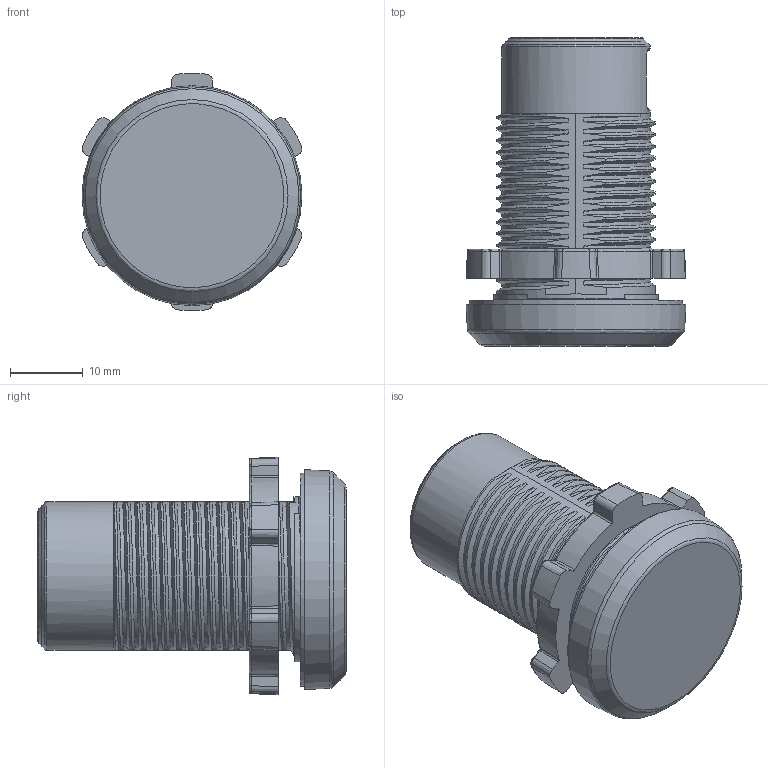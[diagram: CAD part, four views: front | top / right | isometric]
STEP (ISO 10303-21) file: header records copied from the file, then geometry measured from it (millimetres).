
FILE_DESCRIPTION (( 'STEP AP203' ), '1' );
FILE_NAME ('WA231BJB8_20221220.STEP', '2022-12-20T02:47:58', ( '' ), ( '' ), 'SwSTEP 2.0', 'SolidWorks 2013', '' );
FILE_SCHEMA (( 'CONFIG_CONTROL_DESIGN' ));
Length unit declared in the file: millimetre
Products named in the file (1): WA231BJB8_20221220
Bounding box: 30.2 x 42.31 x 32.57 mm (x, y, z)
Volume: 17294.1 mm3; surface area: 6393.7 mm2
Topology: 1 solids, 4 shells, 575 faces, 1731 edges, 1166 vertices
Faces by surface type: bspline 261, cylinder 141, plane 120, cone 53
Full cylindrical faces by diameter (mm): 20.36 x1, 22.5 x1
Entity records: 46420 total; most frequent: CARTESIAN_POINT 34057, ORIENTED_EDGE 3416, EDGE_CURVE 1708, DIRECTION 1233, B_SPLINE_CURVE_WITH_KNOTS 1192, VERTEX_POINT 1157, EDGE_LOOP 595, FACE_OUTER_BOUND 581
